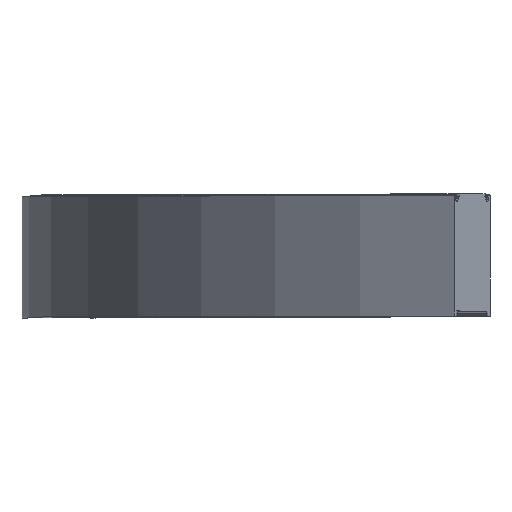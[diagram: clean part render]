
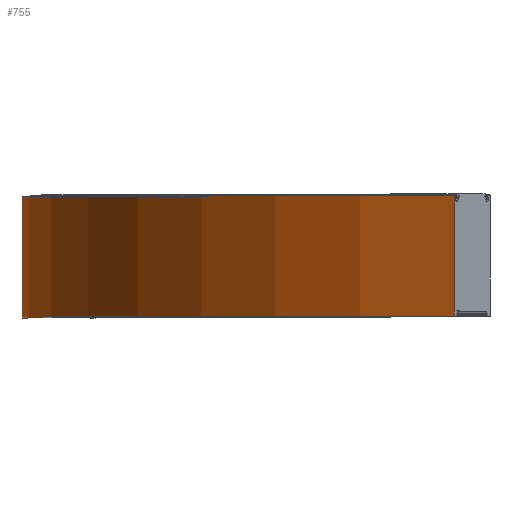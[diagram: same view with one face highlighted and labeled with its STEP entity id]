
A CAD part, top view. The second image highlights one B-rep face of the part: STEP entity #755.
In plain terms, the highlighted cylindrical face has radius 567.252 mm (diameter 1134.5 mm), a partial arc.
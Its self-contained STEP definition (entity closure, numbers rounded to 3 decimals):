
#16 = CARTESIAN_POINT ( 'NONE',  ( -23.5, 79.5, 0. ) ) ;
#17 = LINE ( 'NONE', #899, #510 ) ;
#20 = VECTOR ( 'NONE', #917, 1000. ) ;
#124 = CARTESIAN_POINT ( 'NONE',  ( 543.752, 0., 0. ) ) ;
#186 = DIRECTION ( 'NONE',  ( 0., 1., 0. ) ) ;
#238 = CARTESIAN_POINT ( 'NONE',  ( 543.752, 0.5, 0. ) ) ;
#320 = CIRCLE ( 'NONE', #1190, 567.252 ) ;
#355 = VERTEX_POINT ( 'NONE', #1200 ) ;
#422 = AXIS2_PLACEMENT_3D ( 'NONE', #428, #186, #1203 ) ;
#428 = CARTESIAN_POINT ( 'NONE',  ( 543.752, 79.5, 0. ) ) ;
#507 = DIRECTION ( 'NONE',  ( 0., 0., 1. ) ) ;
#510 = VECTOR ( 'NONE', #1031, 1000. ) ;
#540 = EDGE_LOOP ( 'NONE', ( #584, #836, #673, #1447 ) ) ;
#584 = ORIENTED_EDGE ( 'NONE', *, *, #634, .T. ) ;
#634 = EDGE_CURVE ( 'NONE', #355, #1105, #320, .T. ) ;
#673 = ORIENTED_EDGE ( 'NONE', *, *, #1627, .F. ) ;
#708 = CARTESIAN_POINT ( 'NONE',  ( 260.126, 0.5, 491.255 ) ) ;
#714 = VERTEX_POINT ( 'NONE', #1144 ) ;
#737 = CYLINDRICAL_SURFACE ( 'NONE', #1637, 567.252 ) ;
#755 = ADVANCED_FACE ( 'NONE', ( #1634 ), #737, .T. ) ;
#836 = ORIENTED_EDGE ( 'NONE', *, *, #1505, .F. ) ;
#878 = DIRECTION ( 'NONE',  ( -1., 0., 0. ) ) ;
#899 = CARTESIAN_POINT ( 'NONE',  ( 260.126, 79.5, 491.255 ) ) ;
#917 = DIRECTION ( 'NONE',  ( 0., -1., 0. ) ) ;
#995 = CARTESIAN_POINT ( 'NONE',  ( 260.126, 79.5, 491.255 ) ) ;
#1015 = DIRECTION ( 'NONE',  ( 0., 1., 0. ) ) ;
#1031 = DIRECTION ( 'NONE',  ( 0., -1., 0. ) ) ;
#1105 = VERTEX_POINT ( 'NONE', #708 ) ;
#1115 = LINE ( 'NONE', #16, #20 ) ;
#1144 = CARTESIAN_POINT ( 'NONE',  ( -23.5, 79.5, 0. ) ) ;
#1183 = VERTEX_POINT ( 'NONE', #995 ) ;
#1190 = AXIS2_PLACEMENT_3D ( 'NONE', #238, #1405, #878 ) ;
#1200 = CARTESIAN_POINT ( 'NONE',  ( -23.5, 0.5, 0. ) ) ;
#1203 = DIRECTION ( 'NONE',  ( -1., 0., 0. ) ) ;
#1405 = DIRECTION ( 'NONE',  ( 0., 1., 0. ) ) ;
#1447 = ORIENTED_EDGE ( 'NONE', *, *, #1469, .T. ) ;
#1469 = EDGE_CURVE ( 'NONE', #714, #355, #1115, .T. ) ;
#1505 = EDGE_CURVE ( 'NONE', #1183, #1105, #17, .T. ) ;
#1580 = CIRCLE ( 'NONE', #422, 567.252 ) ;
#1627 = EDGE_CURVE ( 'NONE', #714, #1183, #1580, .T. ) ;
#1634 = FACE_OUTER_BOUND ( 'NONE', #540, .T. ) ;
#1637 = AXIS2_PLACEMENT_3D ( 'NONE', #124, #1015, #507 ) ;
